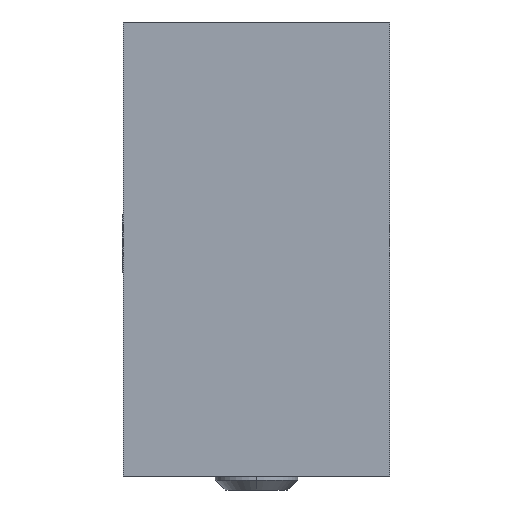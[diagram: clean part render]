
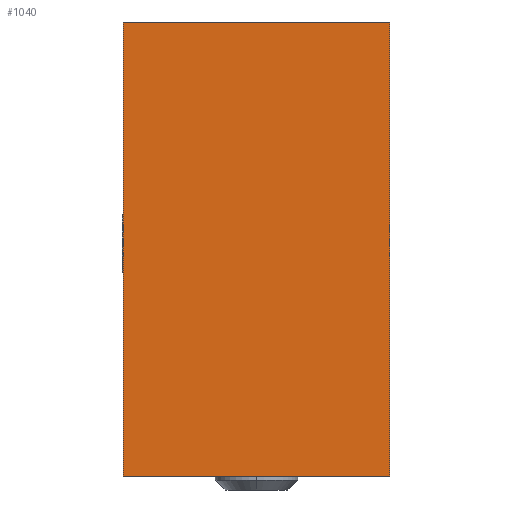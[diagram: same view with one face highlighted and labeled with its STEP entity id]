
A CAD part, left-side view. The second image highlights one B-rep face of the part: STEP entity #1040.
In plain terms, the highlighted planar face has unit normal (-1, 0, 0).
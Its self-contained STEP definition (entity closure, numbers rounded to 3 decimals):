
#446 = DIRECTION ( 'NONE',  ( 0., -1., 0. ) ) ;
#864 = VECTOR ( 'NONE', #5582, 1000. ) ;
#871 = ORIENTED_EDGE ( 'NONE', *, *, #8278, .T. ) ;
#1040 = ADVANCED_FACE ( 'NONE', ( #7719 ), #15128, .F. ) ;
#1787 = CARTESIAN_POINT ( 'NONE',  ( -47., -20.5, -35. ) ) ;
#1948 = VERTEX_POINT ( 'NONE', #16390 ) ;
#2136 = DIRECTION ( 'NONE',  ( 0., 0., -1. ) ) ;
#2143 = VECTOR ( 'NONE', #446, 1000. ) ;
#2244 = DIRECTION ( 'NONE',  ( 1., 0., 0. ) ) ;
#2478 = VERTEX_POINT ( 'NONE', #9615 ) ;
#3047 = CARTESIAN_POINT ( 'NONE',  ( -47., -20.5, -35. ) ) ;
#3215 = EDGE_CURVE ( 'NONE', #15959, #5118, #10106, .T. ) ;
#3252 = LINE ( 'NONE', #15285, #12152 ) ;
#5118 = VERTEX_POINT ( 'NONE', #3047 ) ;
#5362 = LINE ( 'NONE', #13240, #2143 ) ;
#5582 = DIRECTION ( 'NONE',  ( 0., -1., 0. ) ) ;
#5651 = CARTESIAN_POINT ( 'NONE',  ( -47., -20.5, 35. ) ) ;
#6356 = DIRECTION ( 'NONE',  ( 0., 0., -1. ) ) ;
#6616 = AXIS2_PLACEMENT_3D ( 'NONE', #15236, #2244, #16436 ) ;
#7661 = CARTESIAN_POINT ( 'NONE',  ( -47., -20.5, 35. ) ) ;
#7719 = FACE_OUTER_BOUND ( 'NONE', #10756, .T. ) ;
#8031 = ORIENTED_EDGE ( 'NONE', *, *, #15311, .F. ) ;
#8278 = EDGE_CURVE ( 'NONE', #2478, #5118, #12995, .T. ) ;
#8975 = ORIENTED_EDGE ( 'NONE', *, *, #10046, .T. ) ;
#9615 = CARTESIAN_POINT ( 'NONE',  ( -47., 20.5, -35. ) ) ;
#10046 = EDGE_CURVE ( 'NONE', #1948, #2478, #3252, .T. ) ;
#10106 = LINE ( 'NONE', #7661, #10920 ) ;
#10756 = EDGE_LOOP ( 'NONE', ( #871, #15820, #8031, #8975 ) ) ;
#10920 = VECTOR ( 'NONE', #6356, 1000. ) ;
#12152 = VECTOR ( 'NONE', #2136, 1000. ) ;
#12995 = LINE ( 'NONE', #1787, #864 ) ;
#13240 = CARTESIAN_POINT ( 'NONE',  ( -47., -20.5, 35. ) ) ;
#15128 = PLANE ( 'NONE',  #6616 ) ;
#15236 = CARTESIAN_POINT ( 'NONE',  ( -47., -20.5, 35. ) ) ;
#15285 = CARTESIAN_POINT ( 'NONE',  ( -47., 20.5, 35. ) ) ;
#15311 = EDGE_CURVE ( 'NONE', #1948, #15959, #5362, .T. ) ;
#15820 = ORIENTED_EDGE ( 'NONE', *, *, #3215, .F. ) ;
#15959 = VERTEX_POINT ( 'NONE', #5651 ) ;
#16390 = CARTESIAN_POINT ( 'NONE',  ( -47., 20.5, 35. ) ) ;
#16436 = DIRECTION ( 'NONE',  ( 0., 0., -1. ) ) ;
